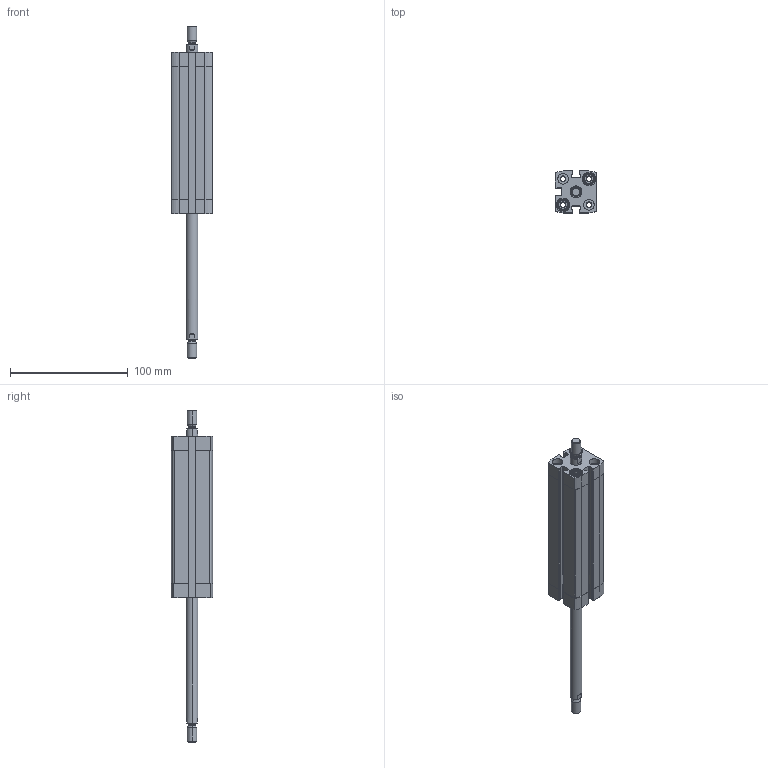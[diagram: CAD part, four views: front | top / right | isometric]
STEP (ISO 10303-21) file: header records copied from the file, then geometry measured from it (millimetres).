
FILE_DESCRIPTION (( 'STEP AP203' ), '1' );
FILE_NAME ('CCN20-100-P.STEP', '2020-06-22T18:41:31', ( '' ), ( '' ), 'SwSTEP 2.0', 'SolidWorks 2019', '' );
FILE_SCHEMA (( 'CONFIG_CONTROL_DESIGN' ));
Length unit declared in the file: millimetre
Products named in the file (1): CCN20-100-P
Bounding box: 35.5 x 35.5 x 281.5 mm (x, y, z)
Volume: 126532.8 mm3; surface area: 54065.7 mm2
Topology: 2 solids, 2 shells, 428 faces, 1120 edges, 728 vertices
Faces by surface type: plane 236, cylinder 140, cone 44, torus 8
Entity records: 13423 total; most frequent: CARTESIAN_POINT 2577, DIRECTION 2314, ORIENTED_EDGE 2240, EDGE_CURVE 1120, AXIS2_PLACEMENT_3D 865, VERTEX_POINT 728, LINE 584, VECTOR 584
